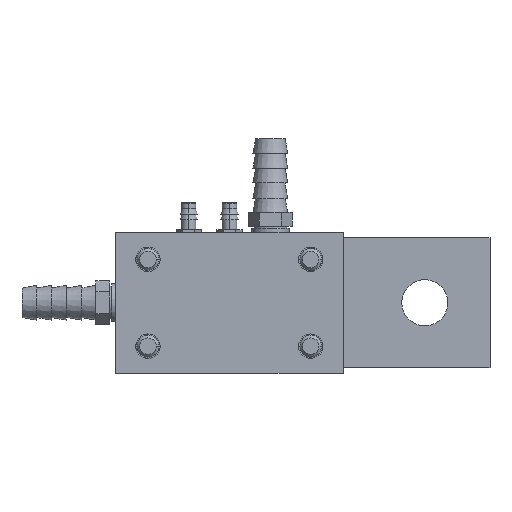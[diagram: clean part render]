
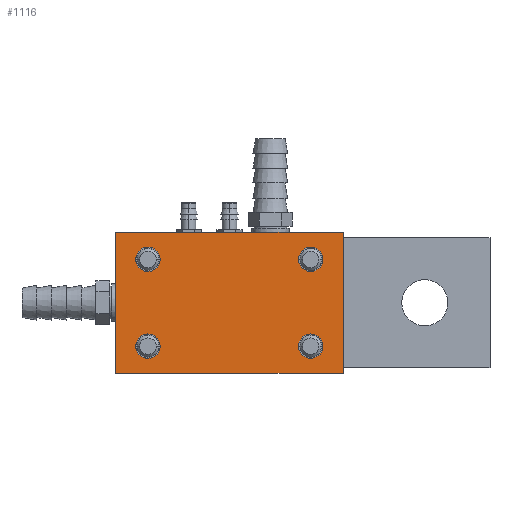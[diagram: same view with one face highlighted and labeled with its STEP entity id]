
A CAD part, left-side view. The second image highlights one B-rep face of the part: STEP entity #1116.
In plain terms, the highlighted planar face has unit normal (-1, 0, 0).
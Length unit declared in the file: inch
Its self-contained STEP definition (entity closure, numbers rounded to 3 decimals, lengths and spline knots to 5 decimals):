
#851=CARTESIAN_POINT('',(-3.3125,-0.935,-0.5));
#852=DIRECTION('',(1.,0.,0.));
#853=DIRECTION('',(0.,-1.,0.));
#854=AXIS2_PLACEMENT_3D('',#851,#852,#853);
#856=CARTESIAN_POINT('',(-3.3125,-0.935,-0.5));
#857=DIRECTION('',(1.,0.,0.));
#858=DIRECTION('',(0.,1.,0.));
#859=AXIS2_PLACEMENT_3D('',#856,#857,#858);
#861=CARTESIAN_POINT('',(-3.3125,-0.935,0.5));
#862=DIRECTION('',(1.,0.,0.));
#863=DIRECTION('',(0.,-1.,0.));
#864=AXIS2_PLACEMENT_3D('',#861,#862,#863);
#866=CARTESIAN_POINT('',(-3.3125,-0.935,0.5));
#867=DIRECTION('',(1.,0.,0.));
#868=DIRECTION('',(0.,1.,0.));
#869=AXIS2_PLACEMENT_3D('',#866,#867,#868);
#871=CARTESIAN_POINT('',(-3.3125,0.94,-0.5));
#872=DIRECTION('',(1.,0.,0.));
#873=DIRECTION('',(0.,-1.,0.));
#874=AXIS2_PLACEMENT_3D('',#871,#872,#873);
#876=CARTESIAN_POINT('',(-3.3125,0.94,-0.5));
#877=DIRECTION('',(1.,0.,0.));
#878=DIRECTION('',(0.,1.,0.));
#879=AXIS2_PLACEMENT_3D('',#876,#877,#878);
#881=CARTESIAN_POINT('',(-3.3125,0.94,0.5));
#882=DIRECTION('',(1.,0.,0.));
#883=DIRECTION('',(0.,-1.,0.));
#884=AXIS2_PLACEMENT_3D('',#881,#882,#883);
#886=CARTESIAN_POINT('',(-3.3125,0.94,0.5));
#887=DIRECTION('',(1.,0.,0.));
#888=DIRECTION('',(0.,1.,0.));
#889=AXIS2_PLACEMENT_3D('',#886,#887,#888);
#919=DIRECTION('',(0.,-1.,0.));
#920=VECTOR('',#919,2.625);
#921=CARTESIAN_POINT('',(-3.3125,1.315,0.8125));
#922=LINE('',#921,#920);
#927=DIRECTION('',(0.,0.,-1.));
#928=VECTOR('',#927,1.625);
#929=CARTESIAN_POINT('',(-3.3125,-1.31,0.8125));
#930=LINE('',#929,#928);
#939=DIRECTION('',(0.,1.,0.));
#940=VECTOR('',#939,2.625);
#941=CARTESIAN_POINT('',(-3.3125,-1.31,-0.8125));
#942=LINE('',#941,#940);
#955=DIRECTION('',(0.,0.,1.));
#956=VECTOR('',#955,1.625);
#957=CARTESIAN_POINT('',(-3.3125,1.315,-0.8125));
#958=LINE('',#957,#956);
#969=CARTESIAN_POINT('',(-3.3125,1.315,-0.8125));
#970=VERTEX_POINT('',#969);
#971=CARTESIAN_POINT('',(-3.3125,1.315,0.8125));
#972=VERTEX_POINT('',#971);
#975=CARTESIAN_POINT('',(-3.3125,-1.31,-0.8125));
#976=VERTEX_POINT('',#975);
#977=CARTESIAN_POINT('',(-3.3125,-1.31,0.8125));
#978=VERTEX_POINT('',#977);
#979=CARTESIAN_POINT('',(-3.3125,-1.07563,-0.5));
#981=VERTEX_POINT('',#979);
#983=CARTESIAN_POINT('',(-3.3125,-0.79438,-0.5));
#985=VERTEX_POINT('',#983);
#987=CARTESIAN_POINT('',(-3.3125,-1.07563,0.5));
#989=VERTEX_POINT('',#987);
#991=CARTESIAN_POINT('',(-3.3125,-0.79438,0.5));
#993=VERTEX_POINT('',#991);
#995=CARTESIAN_POINT('',(-3.3125,0.79938,-0.5));
#997=VERTEX_POINT('',#995);
#999=CARTESIAN_POINT('',(-3.3125,1.08063,-0.5));
#1001=VERTEX_POINT('',#999);
#1003=CARTESIAN_POINT('',(-3.3125,0.79938,0.5));
#1005=VERTEX_POINT('',#1003);
#1007=CARTESIAN_POINT('',(-3.3125,1.08063,0.5));
#1009=VERTEX_POINT('',#1007);
#1079=CARTESIAN_POINT('',(-3.3125,0.0025,0.));
#1080=DIRECTION('',(-1.,0.,0.));
#1081=DIRECTION('',(0.,1.,0.));
#1082=AXIS2_PLACEMENT_3D('',#1079,#1080,#1081);
#1083=PLANE('',#1082);
#1085=ORIENTED_EDGE('',*,*,#1084,.T.);
#1087=ORIENTED_EDGE('',*,*,#1086,.T.);
#1089=ORIENTED_EDGE('',*,*,#1088,.T.);
#1091=ORIENTED_EDGE('',*,*,#1090,.T.);
#1092=EDGE_LOOP('',(#1085,#1087,#1089,#1091));
#1093=FACE_OUTER_BOUND('',#1092,.F.);
#1095=ORIENTED_EDGE('',*,*,#1094,.F.);
#1097=ORIENTED_EDGE('',*,*,#1096,.F.);
#1098=EDGE_LOOP('',(#1095,#1097));
#1099=FACE_BOUND('',#1098,.F.);
#1101=ORIENTED_EDGE('',*,*,#1100,.F.);
#1103=ORIENTED_EDGE('',*,*,#1102,.F.);
#1104=EDGE_LOOP('',(#1101,#1103));
#1105=FACE_BOUND('',#1104,.F.);
#1107=ORIENTED_EDGE('',*,*,#1106,.F.);
#1109=ORIENTED_EDGE('',*,*,#1108,.F.);
#1110=EDGE_LOOP('',(#1107,#1109));
#1111=FACE_BOUND('',#1110,.F.);
#1112=ORIENTED_EDGE('',*,*,#1020,.F.);
#1113=ORIENTED_EDGE('',*,*,#1073,.F.);
#1114=EDGE_LOOP('',(#1112,#1113));
#1115=FACE_BOUND('',#1114,.F.);
#855=CIRCLE('',#854,0.14063);
#860=CIRCLE('',#859,0.14063);
#865=CIRCLE('',#864,0.14063);
#870=CIRCLE('',#869,0.14063);
#875=CIRCLE('',#874,0.14063);
#880=CIRCLE('',#879,0.14063);
#885=CIRCLE('',#884,0.14063);
#890=CIRCLE('',#889,0.14063);
#1020=EDGE_CURVE('',#981,#985,#855,.T.);
#1073=EDGE_CURVE('',#985,#981,#860,.T.);
#1084=EDGE_CURVE('',#972,#978,#922,.T.);
#1086=EDGE_CURVE('',#978,#976,#930,.T.);
#1088=EDGE_CURVE('',#976,#970,#942,.T.);
#1090=EDGE_CURVE('',#970,#972,#958,.T.);
#1094=EDGE_CURVE('',#989,#993,#865,.T.);
#1096=EDGE_CURVE('',#993,#989,#870,.T.);
#1100=EDGE_CURVE('',#997,#1001,#875,.T.);
#1102=EDGE_CURVE('',#1001,#997,#880,.T.);
#1106=EDGE_CURVE('',#1005,#1009,#885,.T.);
#1108=EDGE_CURVE('',#1009,#1005,#890,.T.);
#1116=ADVANCED_FACE('',(#1093,#1099,#1105,#1111,#1115),#1083,.T.);
